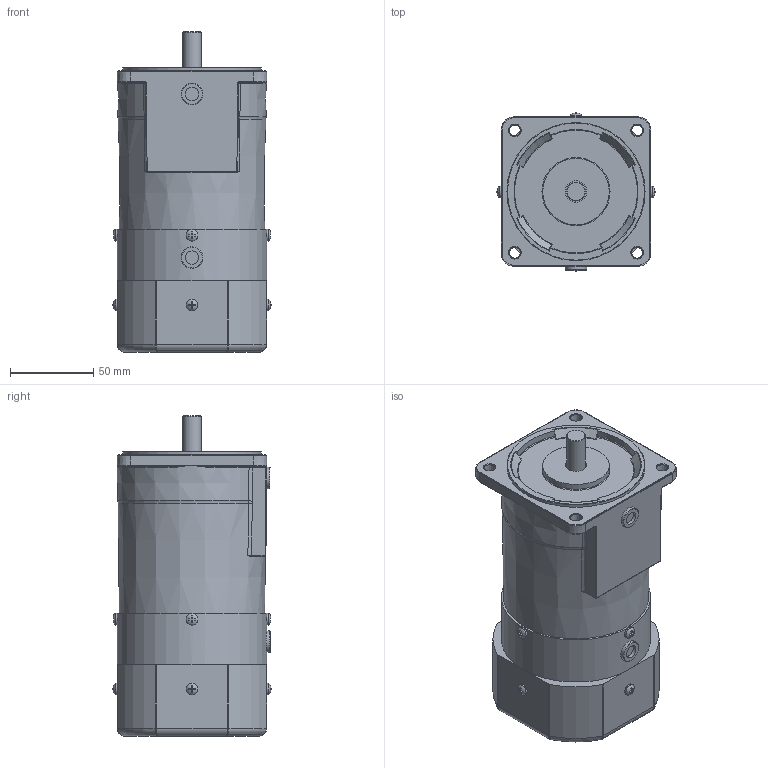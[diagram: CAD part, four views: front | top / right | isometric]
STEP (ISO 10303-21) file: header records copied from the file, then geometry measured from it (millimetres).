
FILE_DESCRIPTION (( 'STEP AP214' ), '1' );
FILE_NAME ('9BDG¤±-60FH.STEP', '2025-01-13T07:46:58', ( '' ), ( '' ), 'SwSTEP 2.0', 'SolidWorks 2024', '' );
FILE_SCHEMA (( 'AUTOMOTIVE_DESIGN' ));
Length unit declared in the file: millimetre
Products named in the file (1): 9BDGㅁ-60FH
Bounding box: 95.09 x 95.09 x 193 mm (x, y, z)
Volume: 1116876.5 mm3; surface area: 71638.4 mm2
Topology: 1 solids, 1 shells, 453 faces, 1149 edges, 720 vertices
Faces by surface type: plane 202, cylinder 145, torus 36, bspline 32, cone 32, sphere 6
Full cylindrical faces by diameter (mm): 6.1 x1, 6.5 x4, 7 x8, 8 x2, 11.39 x1, 13 x3, 40 x1, 83.1 x1, 90 x1
Entity records: 14898 total; most frequent: CARTESIAN_POINT 4459, DIRECTION 2153, ORIENTED_EDGE 2132, EDGE_CURVE 1066, AXIS2_PLACEMENT_3D 829, VERTEX_POINT 703, EDGE_LOOP 549, VECTOR 495
